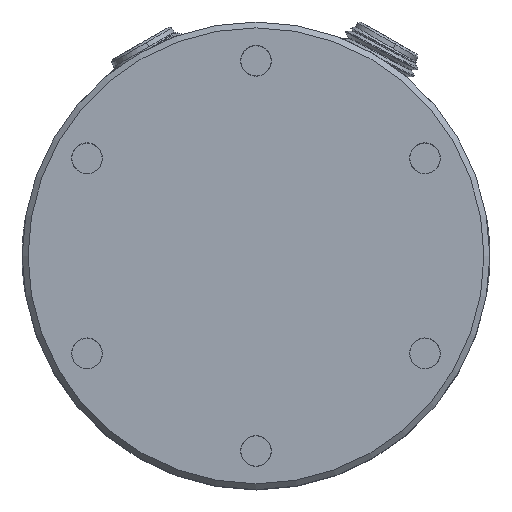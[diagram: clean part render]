
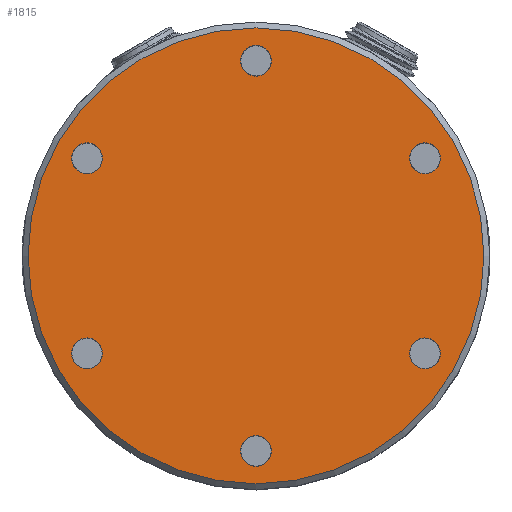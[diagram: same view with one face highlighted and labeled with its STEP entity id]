
A CAD part, top view. The second image highlights one B-rep face of the part: STEP entity #1815.
In plain terms, the highlighted planar face has unit normal (0, 0, 1).
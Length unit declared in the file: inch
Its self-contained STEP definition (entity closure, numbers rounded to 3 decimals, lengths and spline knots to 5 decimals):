
#326=PLANE('',#1965);
#391=FACE_BOUND('',#630,.T.);
#392=FACE_BOUND('',#631,.T.);
#393=FACE_BOUND('',#632,.T.);
#394=FACE_BOUND('',#633,.T.);
#395=FACE_BOUND('',#634,.T.);
#396=FACE_BOUND('',#635,.T.);
#484=FACE_OUTER_BOUND('',#629,.T.);
#629=EDGE_LOOP('',(#1354));
#630=EDGE_LOOP('',(#1355));
#631=EDGE_LOOP('',(#1356));
#632=EDGE_LOOP('',(#1357));
#633=EDGE_LOOP('',(#1358));
#634=EDGE_LOOP('',(#1359));
#635=EDGE_LOOP('',(#1360));
#810=CIRCLE('',#1928,0.1055);
#812=CIRCLE('',#1931,0.1055);
#814=CIRCLE('',#1934,0.1055);
#816=CIRCLE('',#1937,0.1055);
#818=CIRCLE('',#1940,0.1055);
#820=CIRCLE('',#1943,0.1055);
#831=CIRCLE('',#1964,1.56);
#909=VERTEX_POINT('',#2711);
#911=VERTEX_POINT('',#2716);
#913=VERTEX_POINT('',#2721);
#915=VERTEX_POINT('',#2726);
#917=VERTEX_POINT('',#2731);
#919=VERTEX_POINT('',#2736);
#938=VERTEX_POINT('',#2924);
#1084=EDGE_CURVE('',#909,#909,#810,.T.);
#1086=EDGE_CURVE('',#911,#911,#812,.T.);
#1088=EDGE_CURVE('',#913,#913,#814,.T.);
#1090=EDGE_CURVE('',#915,#915,#816,.T.);
#1092=EDGE_CURVE('',#917,#917,#818,.T.);
#1094=EDGE_CURVE('',#919,#919,#820,.T.);
#1113=EDGE_CURVE('',#938,#938,#831,.T.);
#1354=ORIENTED_EDGE('',*,*,#1113,.F.);
#1355=ORIENTED_EDGE('',*,*,#1084,.T.);
#1356=ORIENTED_EDGE('',*,*,#1086,.T.);
#1357=ORIENTED_EDGE('',*,*,#1088,.T.);
#1358=ORIENTED_EDGE('',*,*,#1090,.T.);
#1359=ORIENTED_EDGE('',*,*,#1092,.T.);
#1360=ORIENTED_EDGE('',*,*,#1094,.T.);
#1815=ADVANCED_FACE('',(#484,#391,#392,#393,#394,#395,#396),#326,.T.);
#1928=AXIS2_PLACEMENT_3D('',#2712,#2171,#2172);
#1931=AXIS2_PLACEMENT_3D('',#2717,#2177,#2178);
#1934=AXIS2_PLACEMENT_3D('',#2722,#2183,#2184);
#1937=AXIS2_PLACEMENT_3D('',#2727,#2189,#2190);
#1940=AXIS2_PLACEMENT_3D('',#2732,#2195,#2196);
#1943=AXIS2_PLACEMENT_3D('',#2737,#2201,#2202);
#1964=AXIS2_PLACEMENT_3D('',#2925,#2243,#2244);
#1965=AXIS2_PLACEMENT_3D('',#2926,#2245,#2246);
#2171=DIRECTION('center_axis',(0.,0.,-1.));
#2172=DIRECTION('ref_axis',(-1.,0.,0.));
#2177=DIRECTION('center_axis',(0.,0.,-1.));
#2178=DIRECTION('ref_axis',(-1.,0.,0.));
#2183=DIRECTION('center_axis',(0.,0.,-1.));
#2184=DIRECTION('ref_axis',(-1.,0.,0.));
#2189=DIRECTION('center_axis',(0.,0.,-1.));
#2190=DIRECTION('ref_axis',(-1.,0.,0.));
#2195=DIRECTION('center_axis',(0.,0.,-1.));
#2196=DIRECTION('ref_axis',(-1.,0.,0.));
#2201=DIRECTION('center_axis',(0.,0.,-1.));
#2202=DIRECTION('ref_axis',(-1.,0.,0.));
#2243=DIRECTION('center_axis',(0.,0.,-1.));
#2244=DIRECTION('ref_axis',(1.,0.,0.));
#2245=DIRECTION('center_axis',(0.,0.,1.));
#2246=DIRECTION('ref_axis',(1.,0.,0.));
#2711=CARTESIAN_POINT('',(-0.0445,1.335,0.45));
#2712=CARTESIAN_POINT('Origin',(-0.15,1.335,0.45));
#2716=CARTESIAN_POINT('',(-1.20064,0.6675,0.45));
#2717=CARTESIAN_POINT('Origin',(-1.30614,0.6675,0.45));
#2721=CARTESIAN_POINT('',(-1.20064,-0.6675,0.45));
#2722=CARTESIAN_POINT('Origin',(-1.30614,-0.6675,0.45));
#2726=CARTESIAN_POINT('',(-0.0445,-1.335,0.45));
#2727=CARTESIAN_POINT('Origin',(-0.15,-1.335,0.45));
#2731=CARTESIAN_POINT('',(1.11164,-0.6675,0.45));
#2732=CARTESIAN_POINT('Origin',(1.00614,-0.6675,0.45));
#2736=CARTESIAN_POINT('',(1.11164,0.6675,0.45));
#2737=CARTESIAN_POINT('Origin',(1.00614,0.6675,0.45));
#2924=CARTESIAN_POINT('',(-1.71,0.,0.45));
#2925=CARTESIAN_POINT('Origin',(-0.15,0.,0.45));
#2926=CARTESIAN_POINT('Origin',(-0.15,0.56113,0.45));
